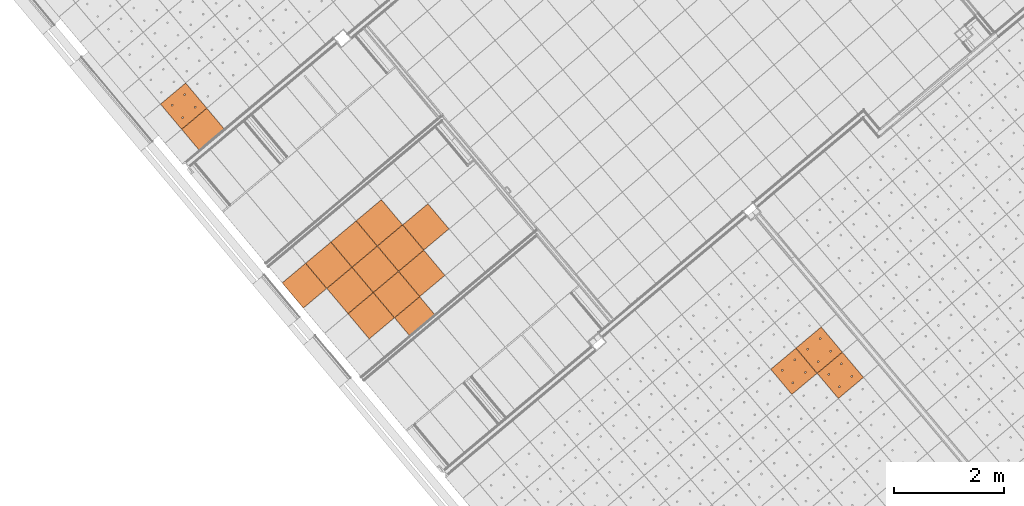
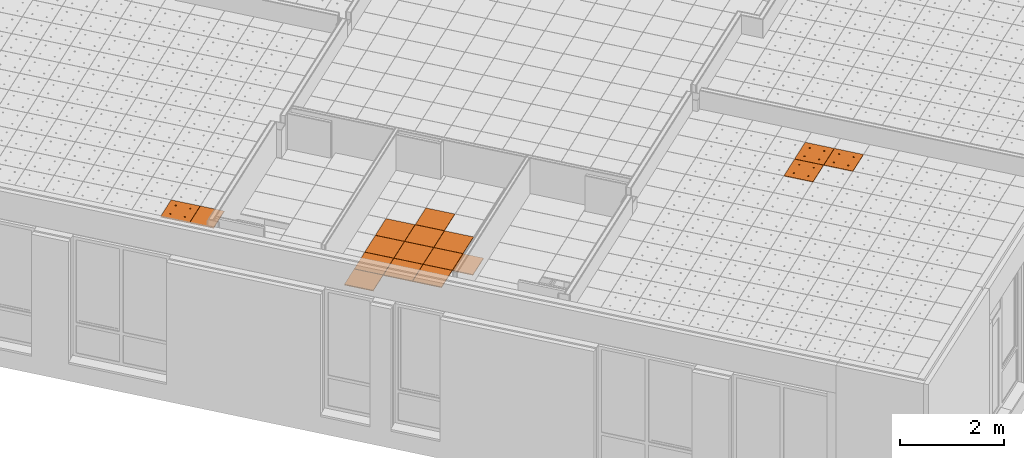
# One storey, part 137 of 338: 17 proxies, 3 elements without a shape of their own.
"""IFC2X3 building model written with IfcOpenShell, lengths in millimetres."""

from ifc_helpers import new_model, entity, si_unit, converted_unit, derived_unit, money_unit, direction, frame, origin_with_axes, place, context, subcontext, project, spatial, faceted_brep, source, transform, mapped, material, type_object, type_shapes, element, aggregate, save


model = new_model("IFC2X3")

# Units and contexts
model_context = context("Model", 3, precision=0.01, world=origin_with_axes(), true_north=direction((0.0, 1.0)))
plan_context = context("Plan", 3, precision=0.01, world=origin_with_axes(), true_north=direction((0.0, 1.0)))
body_context = subcontext(model_context, "Body", "Model", "MODEL_VIEW")
ifc_project = project(units=[si_unit("LENGTHUNIT", "METRE", prefix="MILLI"), si_unit("AREAUNIT", "SQUARE_METRE"), si_unit("VOLUMEUNIT", "CUBIC_METRE"), converted_unit("PLANEANGLEUNIT", "DEGREE", entity("IfcPlaneAngleMeasure", 0.0174532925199), si_unit("PLANEANGLEUNIT", "RADIAN"), dimensions=[0, 0, 0, 0, 0, 0, 0]), money_unit("EUR"), converted_unit("TIMEUNIT", "Year", entity("IfcTimeMeasure", 31556926.0), si_unit("TIMEUNIT", "SECOND"), dimensions=[0, 0, 1, 0, 0, 0, 0]), si_unit("MASSUNIT", "GRAM", prefix="KILO"), si_unit("THERMODYNAMICTEMPERATUREUNIT", "DEGREE_CELSIUS"), si_unit("LUMINOUSINTENSITYUNIT", "LUMEN"), si_unit("ENERGYUNIT", "JOULE", prefix="MEGA"), derived_unit("THERMALCONDUCTANCEUNIT", [(si_unit("POWERUNIT", "WATT"), 1), (si_unit("LENGTHUNIT", "METRE"), -1), (si_unit("THERMODYNAMICTEMPERATUREUNIT", "KELVIN"), -1)]), derived_unit("SPECIFICHEATCAPACITYUNIT", [(si_unit("ENERGYUNIT", "JOULE"), 1), (si_unit("MASSUNIT", "GRAM", prefix="KILO"), -1), (si_unit("THERMODYNAMICTEMPERATUREUNIT", "KELVIN"), -1)]), derived_unit("MASSDENSITYUNIT", [(si_unit("MASSUNIT", "GRAM", prefix="KILO"), 1), (si_unit("VOLUMEUNIT", "CUBIC_METRE"), -1)])], contexts=[model_context, plan_context])

# Site, building, storey
site_placement = place(None, origin_with_axes())
site = spatial("IfcSite", under=ifc_project, at=site_placement, Name="Fortuinstraat Woensdrecht", CompositionType="ELEMENT")
building_placement = place(site_placement, origin_with_axes())
building = spatial("IfcBuilding", under=site, at=building_placement, Name="IKC Fortuna", CompositionType="ELEMENT")
storey_placement = place(building_placement, origin_with_axes())
storey = spatial("IfcBuildingStorey", under=building, at=storey_placement, Name="00 begane grond", CompositionType="ELEMENT", Elevation=0.0)

# Covering, proxies
covering_type = type_object("IfcCoveringType", Name="Curtain Wall Type", PredefinedType="CEILING")
covering_1_placement = place(storey_placement, frame((6990.12644751, -7663.89158706, 4260.0), z_axis=(0.0, 0.0, 1.0), x_axis=(1.0, 0.0, 0.0)))
covering_1 = element("IfcCovering", 1, at=covering_1_placement, inside=storey, type_object=covering_type, Name="45_Plafondafwerking_P02", PredefinedType="CEILING")
ifc_material = material(Name="Gipsplaat")
building_element_proxy_type_1 = type_object("IfcBuildingElementProxyType", Name="Distinct Panel 600 x 600 x 20", PredefinedType="NOTDEFINED")
shared_shape_1 = source(origin_with_axes(), body_context, "Body", "Brep", [
    faceted_brep([(2.49999999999, 2.5, -10.0), (597.5, 2.49999999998, -10.0), (597.5, 2.49999999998, 10.0), (2.49999999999, 2.5, 10.0), (2.50000000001, 597.5, -10.0), (597.5, 597.5, -10.0), (597.5, 597.5, 10.0), (2.50000000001, 597.5, 10.0)], [[[0, 1, 2, 3]], [[0, 4, 5, 1]], [[1, 5, 6, 2]], [[3, 2, 6, 7]], [[4, 0, 3, 7]], [[5, 4, 7, 6]]]),
])
proxy_1_placement = place(covering_1_placement, frame((443.151102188, 371.848118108, 1.05693231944e-10), z_axis=(0.0, 0.0, 1.0), x_axis=(1.0, 0.0, 0.0)))
proxy_1 = element("IfcBuildingElementProxy", 2, at=proxy_1_placement, type_object=building_element_proxy_type_1, material=ifc_material, Name="__Panel-D", context=body_context, shape_type="MappedRepresentation", body=[
    mapped(shared_shape_1, transform((36.9769427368, 422.649625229, 0.0), x_axis=(-0.766044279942, -0.642787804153, 0.0), y_axis=(0.642787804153, -0.766044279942, 0.0), z_axis=(0.0, 0.0, 1.0))),
])
proxy_2_placement = place(covering_1_placement, frame((1288.45035265, 297.894232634, 0.0), z_axis=(0.0, 0.0, 1.0), x_axis=(1.0, 0.0, 0.0)))
proxy_2 = element("IfcBuildingElementProxy", 3, at=proxy_2_placement, type_object=building_element_proxy_type_1, material=ifc_material, Name="__Panel-D", context=body_context, shape_type="MappedRepresentation", body=[
    mapped(shared_shape_1, transform((36.9769427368, 422.649625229, 0.0), x_axis=(-0.766044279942, -0.642787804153, 0.0), y_axis=(0.642787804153, -0.766044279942, 0.0), z_axis=(0.0, 0.0, 1.0))),
])
proxy_3_placement = place(covering_1_placement, frame((828.82378468, -87.7784498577, 1.05693231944e-10), z_axis=(0.0, 0.0, 1.0), x_axis=(1.0, 0.0, 0.0)))
proxy_3 = element("IfcBuildingElementProxy", 4, at=proxy_3_placement, type_object=building_element_proxy_type_1, material=ifc_material, Name="__Panel-D", context=body_context, shape_type="MappedRepresentation", body=[
    mapped(shared_shape_1, transform((36.9769427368, 422.649625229, 0.0), x_axis=(-0.766044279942, -0.642787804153, 0.0), y_axis=(0.642787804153, -0.766044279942, 0.0), z_axis=(0.0, 0.0, 1.0))),
])
proxy_4_placement = place(covering_1_placement, frame((1362.40423812, 1143.19348309, 0.0), z_axis=(0.0, 0.0, 1.0), x_axis=(1.0, 0.0, 0.0)))
proxy_4 = element("IfcBuildingElementProxy", 5, at=proxy_4_placement, type_object=building_element_proxy_type_1, material=ifc_material, Name="__Panel-D", context=body_context, shape_type="MappedRepresentation", body=[
    mapped(shared_shape_1, transform((36.9769427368, 422.649625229, 0.0), x_axis=(-0.766044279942, -0.642787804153, 0.0), y_axis=(0.642787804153, -0.766044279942, 0.0), z_axis=(0.0, 0.0, 1.0))),
])
proxy_5_placement = place(covering_1_placement, frame((1674.12303514, -161.732335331, 0.0), z_axis=(0.0, 0.0, 1.0), x_axis=(1.0, 0.0, 0.0)))
proxy_5 = element("IfcBuildingElementProxy", 6, at=proxy_5_placement, type_object=building_element_proxy_type_1, material=ifc_material, Name="__Panel-D", context=body_context, shape_type="MappedRepresentation", body=[
    mapped(shared_shape_1, transform((36.9769427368, 422.649625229, 0.0), x_axis=(-0.766044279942, -0.642787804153, 0.0), y_axis=(0.642787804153, -0.766044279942, 0.0), z_axis=(0.0, 0.0, 1.0))),
])
proxy_6_placement = place(covering_1_placement, frame((902.777670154, 757.520800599, 0.0), z_axis=(0.0, 0.0, 1.0), x_axis=(1.0, 0.0, 0.0)))
proxy_6 = element("IfcBuildingElementProxy", 7, at=proxy_6_placement, type_object=building_element_proxy_type_1, material=ifc_material, Name="__Panel-D", context=body_context, shape_type="MappedRepresentation", body=[
    mapped(shared_shape_1, transform((36.9769427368, 422.649625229, 0.0), x_axis=(-0.766044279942, -0.642787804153, 0.0), y_axis=(0.642787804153, -0.766044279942, 0.0), z_axis=(0.0, 0.0, 1.0))),
])
proxy_7_placement = place(covering_1_placement, frame((2207.70348858, 1069.23959762, 0.0), z_axis=(0.0, 0.0, 1.0), x_axis=(1.0, 0.0, 0.0)))
proxy_7 = element("IfcBuildingElementProxy", 8, at=proxy_7_placement, type_object=building_element_proxy_type_1, material=ifc_material, Name="__Panel-D", context=body_context, shape_type="MappedRepresentation", body=[
    mapped(shared_shape_1, transform((36.9769427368, 422.649625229, 0.0), x_axis=(-0.766044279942, -0.642787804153, 0.0), y_axis=(0.642787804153, -0.766044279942, 0.0), z_axis=(0.0, 0.0, 1.0))),
])
shared_shape_2 = source(origin_with_axes(), body_context, "Body", "Brep", [
    faceted_brep([(2.5000069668, 2.4999963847, -10.0), (597.499995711, 2.50000275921, -10.0), (597.499995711, 2.50000275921, 10.0), (2.5000069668, 2.4999963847, 10.0), (2.50000214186, 597.499967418, -10.0), (597.499990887, 597.499973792, -10.0), (597.499990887, 597.499973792, 10.0), (2.50000214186, 597.499967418, 10.0)], [[[0, 1, 2, 3]], [[0, 4, 5, 1]], [[1, 5, 6, 2]], [[3, 2, 6, 7]], [[4, 0, 3, 7]], [[5, 4, 7, 6]]]),
])
type_shapes(building_element_proxy_type_1, [shared_shape_1, shared_shape_2])
proxy_8_placement = place(covering_1_placement, frame((1214.49646717, -547.405017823, 1.05693231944e-10), z_axis=(0.0, 0.0, 1.0), x_axis=(1.0, 0.0, 0.0)))
proxy_8 = element("IfcBuildingElementProxy", 9, at=proxy_8_placement, type_object=building_element_proxy_type_1, material=ifc_material, Name="__Panel-D", context=body_context, shape_type="MappedRepresentation", body=[
    mapped(shared_shape_2, transform((36.9769427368, 422.649625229, 0.0), x_axis=(-0.766044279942, -0.642787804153, 0.0), y_axis=(0.642787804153, -0.766044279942, 0.0), z_axis=(0.0, 0.0, 1.0))),
])
proxy_9_placement = place(covering_1_placement, frame((2133.7496031, 223.940347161, 0.0), z_axis=(0.0, 0.0, 1.0), x_axis=(1.0, 0.0, 0.0)))
proxy_9 = element("IfcBuildingElementProxy", 10, at=proxy_9_placement, type_object=building_element_proxy_type_1, material=ifc_material, Name="__Panel-D", context=body_context, shape_type="MappedRepresentation", body=[
    mapped(shared_shape_2, transform((36.9769427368, 422.649625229, 0.0), x_axis=(-0.766044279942, -0.642787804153, 0.0), y_axis=(0.642787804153, -0.766044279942, 0.0), z_axis=(0.0, 0.0, 1.0))),
])
proxy_10_placement = place(covering_1_placement, frame((1748.07692061, 683.566915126, 0.0), z_axis=(0.0, 0.0, 1.0), x_axis=(1.0, 0.0, 0.0)))
proxy_10 = element("IfcBuildingElementProxy", 11, at=proxy_10_placement, type_object=building_element_proxy_type_1, material=ifc_material, Name="__Panel-D", context=body_context, shape_type="MappedRepresentation", body=[
    mapped(shared_shape_2, transform((36.9769427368, 422.649625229, 0.0), x_axis=(-0.766044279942, -0.642787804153, 0.0), y_axis=(0.642787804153, -0.766044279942, 0.0), z_axis=(0.0, 0.0, 1.0))),
])

# Covering, proxy
covering_2_placement = place(storey_placement, frame((9775.85169731, -1002.28242867, 4660.0), z_axis=(0.0, 0.0, 1.0), x_axis=(1.0, 0.0, 0.0)))
covering_2 = element("IfcCovering", 12, at=covering_2_placement, inside=storey, type_object=covering_type, Name="45_Plafondafwerking_P01", PredefinedType="CEILING")
building_element_proxy_type_2 = type_object("IfcBuildingElementProxyType", Name="Main Panel 600 x 600 x 20", PredefinedType="NOTDEFINED")
shared_shape_3 = source(origin_with_axes(), body_context, "Body", "Brep", [
    faceted_brep([(2.49999999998, 2.49999999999, -10.0), (300.0, 2.49999999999, -10.0), (300.0, 2.49999999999, 10.0), (2.49999999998, 2.49999999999, 10.0), (2.49999999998, 300.0, -10.0), (2.49999999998, 597.5, -10.0), (300.0, 597.5, -10.0), (597.5, 597.5, -10.0), (597.5, 300.0, -10.0), (597.5, 2.49999999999, -10.0), (166.25, 450.06232995, -10.0), (165.79423259, 452.64711538, -10.0), (164.896546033, 455.11348892, -10.0), (163.58421608, 457.38651108, -10.0), (161.897117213, 459.39711721, -10.0), (159.886511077, 461.08421608, -10.0), (157.613488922, 462.39654603, -10.0), (155.147115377, 463.29423259, -10.0), (152.562329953, 463.75, -10.0), (149.937670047, 463.75, -10.0), (147.352884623, 463.29423259, -10.0), (144.886511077, 462.39654603, -10.0), (142.613488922, 461.08421608, -10.0), (140.602882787, 459.39711721, -10.0), (138.91578392, 457.38651108, -10.0), (137.603453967, 455.11348892, -10.0), (136.705767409, 452.64711538, -10.0), (136.25, 450.06232995, -10.0), (136.25, 448.75, -10.0), (136.25, 447.43767005, -10.0), (136.705767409, 444.85288462, -10.0), (137.603453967, 442.38651108, -10.0), (138.91578392, 440.11348892, -10.0), (140.602882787, 438.10288279, -10.0), (142.613488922, 436.41578392, -10.0), (144.886511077, 435.10345397, -10.0), (147.352884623, 434.20576741, -10.0), (149.937670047, 433.75, -10.0), (152.562329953, 433.75, -10.0), (155.147115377, 434.20576741, -10.0), (157.613488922, 435.10345397, -10.0), (159.886511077, 436.41578392, -10.0), (161.897117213, 438.10288279, -10.0), (163.58421608, 440.11348892, -10.0), (164.896546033, 442.38651108, -10.0), (165.79423259, 444.85288462, -10.0), (166.25, 447.43767005, -10.0), (463.75, 450.06232995, -10.0), (463.29423259, 452.64711538, -10.0), (462.396546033, 455.11348892, -10.0), (461.08421608, 457.38651108, -10.0), (459.397117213, 459.39711721, -10.0), (457.386511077, 461.08421608, -10.0), (455.113488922, 462.39654603, -10.0), (452.647115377, 463.29423259, -10.0), (450.062329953, 463.75, -10.0), (447.437670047, 463.75, -10.0), (444.852884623, 463.29423259, -10.0), (442.386511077, 462.39654603, -10.0), (440.113488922, 461.08421608, -10.0), (438.102882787, 459.39711721, -10.0), (436.41578392, 457.38651108, -10.0), (435.103453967, 455.11348892, -10.0), (434.205767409, 452.64711538, -10.0), (433.75, 450.06232995, -10.0), (433.75, 448.75, -10.0), (433.75, 447.43767005, -10.0), (434.205767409, 444.85288462, -10.0), (435.103453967, 442.38651108, -10.0), (436.41578392, 440.11348892, -10.0), (438.102882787, 438.10288279, -10.0), (440.113488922, 436.41578392, -10.0), (442.386511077, 435.10345397, -10.0), (444.852884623, 434.20576741, -10.0), (447.437670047, 433.75, -10.0), (450.062329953, 433.75, -10.0), (452.647115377, 434.20576741, -10.0), (455.113488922, 435.10345397, -10.0), (457.386511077, 436.41578392, -10.0), (459.397117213, 438.10288279, -10.0), (461.08421608, 440.11348892, -10.0), (462.396546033, 442.38651108, -10.0), (463.29423259, 444.85288462, -10.0), (463.75, 447.43767005, -10.0), (463.75, 152.56232995, -10.0), (463.29423259, 155.14711538, -10.0), (462.396546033, 157.61348892, -10.0), (461.08421608, 159.88651108, -10.0), (459.397117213, 161.89711721, -10.0), (457.386511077, 163.58421608, -10.0), (455.113488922, 164.89654603, -10.0), (452.647115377, 165.79423259, -10.0), (450.062329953, 166.25, -10.0), (447.437670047, 166.25, -10.0), (444.852884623, 165.79423259, -10.0), (442.386511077, 164.89654603, -10.0), (440.113488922, 163.58421608, -10.0), (438.102882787, 161.89711721, -10.0), (436.41578392, 159.88651108, -10.0), (435.103453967, 157.61348892, -10.0), (434.205767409, 155.14711538, -10.0), (433.75, 152.56232995, -10.0), (433.75, 151.25, -10.0), (433.75, 149.93767005, -10.0), (434.205767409, 147.35288462, -10.0), (435.103453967, 144.88651108, -10.0), (436.41578392, 142.61348892, -10.0), (438.102882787, 140.60288279, -10.0), (440.113488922, 138.91578392, -10.0), (442.386511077, 137.60345397, -10.0), (444.852884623, 136.70576741, -10.0), (447.437670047, 136.25, -10.0), (450.062329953, 136.25, -10.0), (452.647115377, 136.70576741, -10.0), (455.113488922, 137.60345397, -10.0), (457.386511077, 138.91578392, -10.0), (459.397117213, 140.60288279, -10.0), (461.08421608, 142.61348892, -10.0), (462.396546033, 144.88651108, -10.0), (463.29423259, 147.35288462, -10.0), (463.75, 149.93767005, -10.0), (166.25, 152.56232995, -10.0), (165.79423259, 155.14711538, -10.0), (164.896546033, 157.61348892, -10.0), (163.58421608, 159.88651108, -10.0), (161.897117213, 161.89711721, -10.0), (159.886511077, 163.58421608, -10.0), (157.613488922, 164.89654603, -10.0), (155.147115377, 165.79423259, -10.0), (152.562329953, 166.25, -10.0), (149.937670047, 166.25, -10.0), (147.352884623, 165.79423259, -10.0), (144.886511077, 164.89654603, -10.0), (142.613488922, 163.58421608, -10.0), (140.602882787, 161.89711721, -10.0), (138.91578392, 159.88651108, -10.0), (137.603453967, 157.61348892, -10.0), (136.705767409, 155.14711538, -10.0), (136.25, 152.56232995, -10.0), (136.25, 151.25, -10.0), (136.25, 149.93767005, -10.0), (136.705767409, 147.35288462, -10.0), (137.603453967, 144.88651108, -10.0), (138.91578392, 142.61348892, -10.0), (140.602882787, 140.60288279, -10.0), (142.613488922, 138.91578392, -10.0), (144.886511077, 137.60345397, -10.0), (147.352884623, 136.70576741, -10.0), (149.937670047, 136.25, -10.0), (152.562329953, 136.25, -10.0), (155.147115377, 136.70576741, -10.0), (157.613488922, 137.60345397, -10.0), (159.886511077, 138.91578392, -10.0), (161.897117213, 140.60288279, -10.0), (163.58421608, 142.61348892, -10.0), (164.896546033, 144.88651108, -10.0), (165.79423259, 147.35288462, -10.0), (166.25, 149.93767005, -10.0), (597.5, 2.49999999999, 10.0), (597.5, 300.0, 10.0), (597.5, 597.5, 10.0), (300.0, 597.5, 10.0), (2.49999999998, 597.5, 10.0), (2.49999999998, 300.0, 10.0), (166.25, 450.06232995, 10.0), (166.25, 447.43767005, 10.0), (165.79423259, 444.85288462, 10.0), (164.896546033, 442.38651108, 10.0), (163.58421608, 440.11348892, 10.0), (161.897117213, 438.10288279, 10.0), (159.886511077, 436.41578392, 10.0), (157.613488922, 435.10345397, 10.0), (155.147115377, 434.20576741, 10.0), (152.562329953, 433.75, 10.0), (149.937670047, 433.75, 10.0), (147.352884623, 434.20576741, 10.0), (144.886511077, 435.10345397, 10.0), (142.613488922, 436.41578392, 10.0), (140.602882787, 438.10288279, 10.0), (138.91578392, 440.11348892, 10.0), (137.603453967, 442.38651108, 10.0), (136.705767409, 444.85288462, 10.0), (136.25, 447.43767005, 10.0), (136.25, 448.75, 10.0), (136.25, 450.06232995, 10.0), (136.705767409, 452.64711538, 10.0), (137.603453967, 455.11348892, 10.0), (138.91578392, 457.38651108, 10.0), (140.602882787, 459.39711721, 10.0), (142.613488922, 461.08421608, 10.0), (144.886511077, 462.39654603, 10.0), (147.352884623, 463.29423259, 10.0), (149.937670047, 463.75, 10.0), (152.562329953, 463.75, 10.0), (155.147115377, 463.29423259, 10.0), (157.613488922, 462.39654603, 10.0), (159.886511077, 461.08421608, 10.0), (161.897117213, 459.39711721, 10.0), (163.58421608, 457.38651108, 10.0), (164.896546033, 455.11348892, 10.0), (165.79423259, 452.64711538, 10.0), (463.75, 450.06232995, 10.0), (463.75, 447.43767005, 10.0), (463.29423259, 444.85288462, 10.0), (462.396546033, 442.38651108, 10.0), (461.08421608, 440.11348892, 10.0), (459.397117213, 438.10288279, 10.0), (457.386511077, 436.41578392, 10.0), (455.113488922, 435.10345397, 10.0), (452.647115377, 434.20576741, 10.0), (450.062329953, 433.75, 10.0), (447.437670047, 433.75, 10.0), (444.852884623, 434.20576741, 10.0), (442.386511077, 435.10345397, 10.0), (440.113488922, 436.41578392, 10.0), (438.102882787, 438.10288279, 10.0), (436.41578392, 440.11348892, 10.0), (435.103453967, 442.38651108, 10.0), (434.205767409, 444.85288462, 10.0), (433.75, 447.43767005, 10.0), (433.75, 448.75, 10.0), (433.75, 450.06232995, 10.0), (434.205767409, 452.64711538, 10.0), (435.103453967, 455.11348892, 10.0), (436.41578392, 457.38651108, 10.0), (438.102882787, 459.39711721, 10.0), (440.113488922, 461.08421608, 10.0), (442.386511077, 462.39654603, 10.0), (444.852884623, 463.29423259, 10.0), (447.437670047, 463.75, 10.0), (450.062329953, 463.75, 10.0), (452.647115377, 463.29423259, 10.0), (455.113488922, 462.39654603, 10.0), (457.386511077, 461.08421608, 10.0), (459.397117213, 459.39711721, 10.0), (461.08421608, 457.38651108, 10.0), (462.396546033, 455.11348892, 10.0), (463.29423259, 452.64711538, 10.0), (463.75, 152.56232995, 10.0), (463.75, 149.93767005, 10.0), (463.29423259, 147.35288462, 10.0), (462.396546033, 144.88651108, 10.0), (461.08421608, 142.61348892, 10.0), (459.397117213, 140.60288279, 10.0), (457.386511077, 138.91578392, 10.0), (455.113488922, 137.60345397, 10.0), (452.647115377, 136.70576741, 10.0), (450.062329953, 136.25, 10.0), (447.437670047, 136.25, 10.0), (444.852884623, 136.70576741, 10.0), (442.386511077, 137.60345397, 10.0), (440.113488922, 138.91578392, 10.0), (438.102882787, 140.60288279, 10.0), (436.41578392, 142.61348892, 10.0), (435.103453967, 144.88651108, 10.0), (434.205767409, 147.35288462, 10.0), (433.75, 149.93767005, 10.0), (433.75, 151.25, 10.0), (433.75, 152.56232995, 10.0), (434.205767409, 155.14711538, 10.0), (435.103453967, 157.61348892, 10.0), (436.41578392, 159.88651108, 10.0), (438.102882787, 161.89711721, 10.0), (440.113488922, 163.58421608, 10.0), (442.386511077, 164.89654603, 10.0), (444.852884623, 165.79423259, 10.0), (447.437670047, 166.25, 10.0), (450.062329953, 166.25, 10.0), (452.647115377, 165.79423259, 10.0), (455.113488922, 164.89654603, 10.0), (457.386511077, 163.58421608, 10.0), (459.397117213, 161.89711721, 10.0), (461.08421608, 159.88651108, 10.0), (462.396546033, 157.61348892, 10.0), (463.29423259, 155.14711538, 10.0), (166.25, 152.56232995, 10.0), (166.25, 149.93767005, 10.0), (165.79423259, 147.35288462, 10.0), (164.896546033, 144.88651108, 10.0), (163.58421608, 142.61348892, 10.0), (161.897117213, 140.60288279, 10.0), (159.886511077, 138.91578392, 10.0), (157.613488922, 137.60345397, 10.0), (155.147115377, 136.70576741, 10.0), (152.562329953, 136.25, 10.0), (149.937670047, 136.25, 10.0), (147.352884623, 136.70576741, 10.0), (144.886511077, 137.60345397, 10.0), (142.613488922, 138.91578392, 10.0), (140.602882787, 140.60288279, 10.0), (138.91578392, 142.61348892, 10.0), (137.603453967, 144.88651108, 10.0), (136.705767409, 147.35288462, 10.0), (136.25, 149.93767005, 10.0), (136.25, 151.25, 10.0), (136.25, 152.56232995, 10.0), (136.705767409, 155.14711538, 10.0), (137.603453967, 157.61348892, 10.0), (138.91578392, 159.88651108, 10.0), (140.602882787, 161.89711721, 10.0), (142.613488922, 163.58421608, 10.0), (144.886511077, 164.89654603, 10.0), (147.352884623, 165.79423259, 10.0), (149.937670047, 166.25, 10.0), (152.562329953, 166.25, 10.0), (155.147115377, 165.79423259, 10.0), (157.613488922, 164.89654603, 10.0), (159.886511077, 163.58421608, 10.0), (161.897117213, 161.89711721, 10.0), (163.58421608, 159.88651108, 10.0), (164.896546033, 157.61348892, 10.0), (165.79423259, 155.14711538, 10.0)], [[[0, 1, 2, 3]], [[0, 4, 5, 6, 7, 8, 9, 1], [10, 11, 12, 13, 14, 15, 16, 17, 18, 19, 20, 21, 22, 23, 24, 25, 26, 27, 28, 29, 30, 31, 32, 33, 34, 35, 36, 37, 38, 39, 40, 41, 42, 43, 44, 45, 46], [47, 48, 49, 50, 51, 52, 53, 54, 55, 56, 57, 58, 59, 60, 61, 62, 63, 64, 65, 66, 67, 68, 69, 70, 71, 72, 73, 74, 75, 76, 77, 78, 79, 80, 81, 82, 83], [84, 85, 86, 87, 88, 89, 90, 91, 92, 93, 94, 95, 96, 97, 98, 99, 100, 101, 102, 103, 104, 105, 106, 107, 108, 109, 110, 111, 112, 113, 114, 115, 116, 117, 118, 119, 120], [121, 122, 123, 124, 125, 126, 127, 128, 129, 130, 131, 132, 133, 134, 135, 136, 137, 138, 139, 140, 141, 142, 143, 144, 145, 146, 147, 148, 149, 150, 151, 152, 153, 154, 155, 156, 157]], [[1, 9, 158, 2]], [[3, 2, 158, 159, 160, 161, 162, 163], [164, 165, 166, 167, 168, 169, 170, 171, 172, 173, 174, 175, 176, 177, 178, 179, 180, 181, 182, 183, 184, 185, 186, 187, 188, 189, 190, 191, 192, 193, 194, 195, 196, 197, 198, 199, 200], [201, 202, 203, 204, 205, 206, 207, 208, 209, 210, 211, 212, 213, 214, 215, 216, 217, 218, 219, 220, 221, 222, 223, 224, 225, 226, 227, 228, 229, 230, 231, 232, 233, 234, 235, 236, 237], [238, 239, 240, 241, 242, 243, 244, 245, 246, 247, 248, 249, 250, 251, 252, 253, 254, 255, 256, 257, 258, 259, 260, 261, 262, 263, 264, 265, 266, 267, 268, 269, 270, 271, 272, 273, 274], [275, 276, 277, 278, 279, 280, 281, 282, 283, 284, 285, 286, 287, 288, 289, 290, 291, 292, 293, 294, 295, 296, 297, 298, 299, 300, 301, 302, 303, 304, 305, 306, 307, 308, 309, 310, 311]], [[4, 0, 3, 163]], [[5, 4, 163, 162]], [[6, 5, 162, 161]], [[7, 6, 161, 160]], [[8, 7, 160, 159]], [[9, 8, 159, 158]], [[11, 10, 164, 200]], [[12, 11, 200, 199]], [[13, 12, 199, 198]], [[14, 13, 198, 197]], [[15, 14, 197, 196]], [[16, 15, 196, 195]], [[17, 16, 195, 194]], [[18, 17, 194, 193]], [[19, 18, 193, 192]], [[20, 19, 192, 191]], [[21, 20, 191, 190]], [[22, 21, 190, 189]], [[23, 22, 189, 188]], [[24, 23, 188, 187]], [[25, 24, 187, 186]], [[26, 25, 186, 185]], [[27, 26, 185, 184]], [[28, 27, 184, 183]], [[29, 28, 183, 182]], [[30, 29, 182, 181]], [[31, 30, 181, 180]], [[32, 31, 180, 179]], [[33, 32, 179, 178]], [[34, 33, 178, 177]], [[35, 34, 177, 176]], [[36, 35, 176, 175]], [[37, 36, 175, 174]], [[38, 37, 174, 173]], [[39, 38, 173, 172]], [[40, 39, 172, 171]], [[41, 40, 171, 170]], [[42, 41, 170, 169]], [[43, 42, 169, 168]], [[44, 43, 168, 167]], [[45, 44, 167, 166]], [[46, 45, 166, 165]], [[10, 46, 165, 164]], [[48, 47, 201, 237]], [[49, 48, 237, 236]], [[50, 49, 236, 235]], [[51, 50, 235, 234]], [[52, 51, 234, 233]], [[53, 52, 233, 232]], [[54, 53, 232, 231]], [[55, 54, 231, 230]], [[56, 55, 230, 229]], [[57, 56, 229, 228]], [[58, 57, 228, 227]], [[59, 58, 227, 226]], [[60, 59, 226, 225]], [[61, 60, 225, 224]], [[62, 61, 224, 223]], [[63, 62, 223, 222]], [[64, 63, 222, 221]], [[65, 64, 221, 220]], [[66, 65, 220, 219]], [[67, 66, 219, 218]], [[68, 67, 218, 217]], [[69, 68, 217, 216]], [[70, 69, 216, 215]], [[71, 70, 215, 214]], [[72, 71, 214, 213]], [[73, 72, 213, 212]], [[74, 73, 212, 211]], [[75, 74, 211, 210]], [[76, 75, 210, 209]], [[77, 76, 209, 208]], [[78, 77, 208, 207]], [[79, 78, 207, 206]], [[80, 79, 206, 205]], [[81, 80, 205, 204]], [[82, 81, 204, 203]], [[83, 82, 203, 202]], [[47, 83, 202, 201]], [[85, 84, 238, 274]], [[86, 85, 274, 273]], [[87, 86, 273, 272]], [[88, 87, 272, 271]], [[89, 88, 271, 270]], [[90, 89, 270, 269]], [[91, 90, 269, 268]], [[92, 91, 268, 267]], [[93, 92, 267, 266]], [[94, 93, 266, 265]], [[95, 94, 265, 264]], [[96, 95, 264, 263]], [[97, 96, 263, 262]], [[98, 97, 262, 261]], [[99, 98, 261, 260]], [[100, 99, 260, 259]], [[101, 100, 259, 258]], [[102, 101, 258, 257]], [[103, 102, 257, 256]], [[104, 103, 256, 255]], [[105, 104, 255, 254]], [[106, 105, 254, 253]], [[107, 106, 253, 252]], [[108, 107, 252, 251]], [[109, 108, 251, 250]], [[110, 109, 250, 249]], [[111, 110, 249, 248]], [[112, 111, 248, 247]], [[113, 112, 247, 246]], [[114, 113, 246, 245]], [[115, 114, 245, 244]], [[116, 115, 244, 243]], [[117, 116, 243, 242]], [[118, 117, 242, 241]], [[119, 118, 241, 240]], [[120, 119, 240, 239]], [[84, 120, 239, 238]], [[122, 121, 275, 311]], [[123, 122, 311, 310]], [[124, 123, 310, 309]], [[125, 124, 309, 308]], [[126, 125, 308, 307]], [[127, 126, 307, 306]], [[128, 127, 306, 305]], [[129, 128, 305, 304]], [[130, 129, 304, 303]], [[131, 130, 303, 302]], [[132, 131, 302, 301]], [[133, 132, 301, 300]], [[134, 133, 300, 299]], [[135, 134, 299, 298]], [[136, 135, 298, 297]], [[137, 136, 297, 296]], [[138, 137, 296, 295]], [[139, 138, 295, 294]], [[140, 139, 294, 293]], [[141, 140, 293, 292]], [[142, 141, 292, 291]], [[143, 142, 291, 290]], [[144, 143, 290, 289]], [[145, 144, 289, 288]], [[146, 145, 288, 287]], [[147, 146, 287, 286]], [[148, 147, 286, 285]], [[149, 148, 285, 284]], [[150, 149, 284, 283]], [[151, 150, 283, 282]], [[152, 151, 282, 281]], [[153, 152, 281, 280]], [[154, 153, 280, 279]], [[155, 154, 279, 278]], [[156, 155, 278, 277]], [[157, 156, 277, 276]], [[121, 157, 276, 275]]]),
])
type_shapes(building_element_proxy_type_2, [shared_shape_3])
proxy_11_placement = place(covering_2_placement, frame((-4981.93837651, -3397.10023983, 2.16715534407e-10), z_axis=(0.0, 0.0, 1.0), x_axis=(1.0, 0.0, 0.0)))
proxy_11 = element("IfcBuildingElementProxy", 13, at=proxy_11_placement, type_object=building_element_proxy_type_2, material=ifc_material, Name="__600x664 Rockfon Krios", context=body_context, shape_type="MappedRepresentation", body=[
    mapped(shared_shape_3, transform((36.9769427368, 422.649625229, 0.0), x_axis=(-0.766044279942, -0.642787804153, 0.0), y_axis=(0.642787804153, -0.766044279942, 0.0), z_axis=(0.0, 0.0, 1.0))),
])

# Covering, proxies
covering_3_placement = place(storey_placement, frame((15150.6418133, -6622.13986243, 4660.0), z_axis=(0.0, 0.0, 1.0), x_axis=(1.0, 0.0, 0.0)))
covering_3 = element("IfcCovering", 14, at=covering_3_placement, inside=storey, type_object=covering_type, Name="45_Plafondafwerking_P01", PredefinedType="CEILING")
proxy_12_placement = place(covering_3_placement, frame((1197.66873099, -2212.86461829, 0.0), z_axis=(0.0, 0.0, 1.0), x_axis=(1.0, 0.0, 0.0)))
proxy_12 = element("IfcBuildingElementProxy", 15, at=proxy_12_placement, type_object=building_element_proxy_type_2, material=ifc_material, Name="__600x691 Rockfon Krios", context=body_context, shape_type="MappedRepresentation", body=[
    mapped(shared_shape_3, transform((36.9769427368, 422.649625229, 0.0), x_axis=(-0.766044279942, -0.642787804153, 0.0), y_axis=(0.642787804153, -0.766044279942, 0.0), z_axis=(0.0, 0.0, 1.0))),
])
proxy_13_placement = place(covering_3_placement, frame((1583.34141348, -2672.49118625, 0.0), z_axis=(0.0, 0.0, 1.0), x_axis=(1.0, 0.0, 0.0)))
proxy_13 = element("IfcBuildingElementProxy", 16, at=proxy_13_placement, type_object=building_element_proxy_type_2, material=ifc_material, Name="__600x692 Rockfon Krios", context=body_context, shape_type="MappedRepresentation", body=[
    mapped(shared_shape_3, transform((36.9769427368, 422.649625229, 0.0), x_axis=(-0.766044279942, -0.642787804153, 0.0), y_axis=(0.642787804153, -0.766044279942, 0.0), z_axis=(0.0, 0.0, 1.0))),
])
proxy_14_placement = place(covering_3_placement, frame((738.042163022, -2598.53730078, 0.0), z_axis=(0.0, 0.0, 1.0), x_axis=(1.0, 0.0, 0.0)))
proxy_14 = element("IfcBuildingElementProxy", 17, at=proxy_14_placement, type_object=building_element_proxy_type_2, material=ifc_material, Name="__600x700 Rockfon Krios", context=body_context, shape_type="MappedRepresentation", body=[
    mapped(shared_shape_3, transform((36.9769427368, 422.649625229, 0.0), x_axis=(-0.766044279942, -0.642787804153, 0.0), y_axis=(0.642787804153, -0.766044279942, 0.0), z_axis=(0.0, 0.0, 1.0))),
])
aggregate(covering_3, [proxy_12, proxy_13, proxy_14])

# Proxy
building_element_proxy_type_3 = type_object("IfcBuildingElementProxyType", Name="600 x 495 x 20", PredefinedType="NOTDEFINED")
shared_shape_4 = source(origin_with_axes(), body_context, "Body", "Brep", [
    faceted_brep([(2.49999828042, 2.49999271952, -10.0), (597.500011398, 2.50000259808, -10.0), (597.500011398, 2.50000259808, 10.0), (2.49999828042, 2.49999271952, 10.0), (2.49999628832, 492.591328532, -10.0), (597.500001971, 492.59132955, -10.0), (597.500001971, 492.59132955, 10.0), (2.49999628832, 492.591328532, 10.0)], [[[0, 1, 2, 3]], [[0, 4, 5, 1]], [[1, 5, 6, 2]], [[3, 2, 6, 7]], [[4, 0, 3, 7]], [[5, 4, 7, 6]]]),
])
type_shapes(building_element_proxy_type_3, [shared_shape_4])
proxy_15_placement = place(covering_2_placement, frame((-4629.98270341, -3816.54446144, 2.16715534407e-10), z_axis=(0.0, 0.0, 1.0), x_axis=(1.0, 0.0, 0.0)))
proxy_15 = element("IfcBuildingElementProxy", 18, at=proxy_15_placement, type_object=building_element_proxy_type_3, material=ifc_material, Name="__600x752 Rockfon Krios", context=body_context, shape_type="MappedRepresentation", body=[
    mapped(shared_shape_4, transform((70.6939521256, 382.467278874, 0.0), x_axis=(-0.766044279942, -0.642787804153, 0.0), y_axis=(0.642787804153, -0.766044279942, 0.0), z_axis=(0.0, 0.0, 1.0))),
])

aggregate(covering_2, [proxy_11, proxy_15])

building_element_proxy_type_4 = type_object("IfcBuildingElementProxyType", Name="Distinct Panel 557 x 600 x 20", PredefinedType="NOTDEFINED")
shared_shape_5 = source(origin_with_axes(), body_context, "Body", "Brep", [
    faceted_brep([(2.49999091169, 2.50000798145, -10.0), (554.485611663, 2.49999515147, -10.0), (554.485611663, 2.49999515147, 10.0), (2.49999091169, 2.50000798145, 10.0), (2.50000274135, 597.499992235, -10.0), (554.485604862, 597.499995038, -10.0), (554.485604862, 597.499995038, 10.0), (2.50000274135, 597.499992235, 10.0)], [[[0, 1, 2, 3]], [[0, 4, 5, 1]], [[1, 5, 6, 2]], [[3, 2, 6, 7]], [[4, 0, 3, 7]], [[5, 4, 7, 6]]]),
])
type_shapes(building_element_proxy_type_4, [shared_shape_5])
proxy_16_placement = place(covering_1_placement, frame((0.0, 0.0, 1.24344978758e-10), z_axis=(0.0, 0.0, 1.0), x_axis=(1.0, 0.0, 0.0)))
proxy_16 = element("IfcBuildingElementProxy", 19, at=proxy_16_placement, type_object=building_element_proxy_type_4, material=ifc_material, Name="__Panel-D", context=body_context, shape_type="MappedRepresentation", body=[
    mapped(shared_shape_5, transform((20.5014769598, 408.825060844, 0.0), x_axis=(-0.766044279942, -0.642787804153, 0.0), y_axis=(0.642787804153, -0.766044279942, 0.0), z_axis=(0.0, 0.0, 1.0))),
])

building_element_proxy_type_5 = type_object("IfcBuildingElementProxyType", Name="Distinct Panel 600 x 425 x 20", PredefinedType="NOTDEFINED")
shared_shape_6 = source(origin_with_axes(), body_context, "Body", "Brep", [
    faceted_brep([(2.49999982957, 2.50000777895, -10.0), (597.499990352, 2.50000058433, -10.0), (597.499990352, 2.50000058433, 10.0), (2.49999982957, 2.50000777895, 10.0), (2.5000125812, 422.451774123, -10.0), (597.500005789, 422.451736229, -10.0), (597.500005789, 422.451736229, 10.0), (2.5000125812, 422.451774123, 10.0)], [[[0, 1, 2, 3]], [[0, 4, 5, 1]], [[1, 5, 6, 2]], [[3, 2, 6, 7]], [[4, 0, 3, 7]], [[5, 4, 7, 6]]]),
])
type_shapes(building_element_proxy_type_5, [shared_shape_6])
proxy_17_placement = place(covering_1_placement, frame((2003.53627503, -554.311545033, 0.0), z_axis=(0.0, 0.0, 1.0), x_axis=(1.0, 0.0, 0.0)))
proxy_17 = element("IfcBuildingElementProxy", 20, at=proxy_17_placement, type_object=building_element_proxy_type_5, material=ifc_material, Name="__Panel-D", context=body_context, shape_type="MappedRepresentation", body=[
    mapped(shared_shape_6, transform((93.2363853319, 355.602266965, 0.0), x_axis=(-0.766044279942, -0.642787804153, 0.0), y_axis=(0.642787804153, -0.766044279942, 0.0), z_axis=(0.0, 0.0, 1.0))),
])

aggregate(covering_1, [proxy_16, proxy_1, proxy_2, proxy_3, proxy_4, proxy_5, proxy_8, proxy_6, proxy_9, proxy_10, proxy_7, proxy_17])

save(model, "model.ifc")
